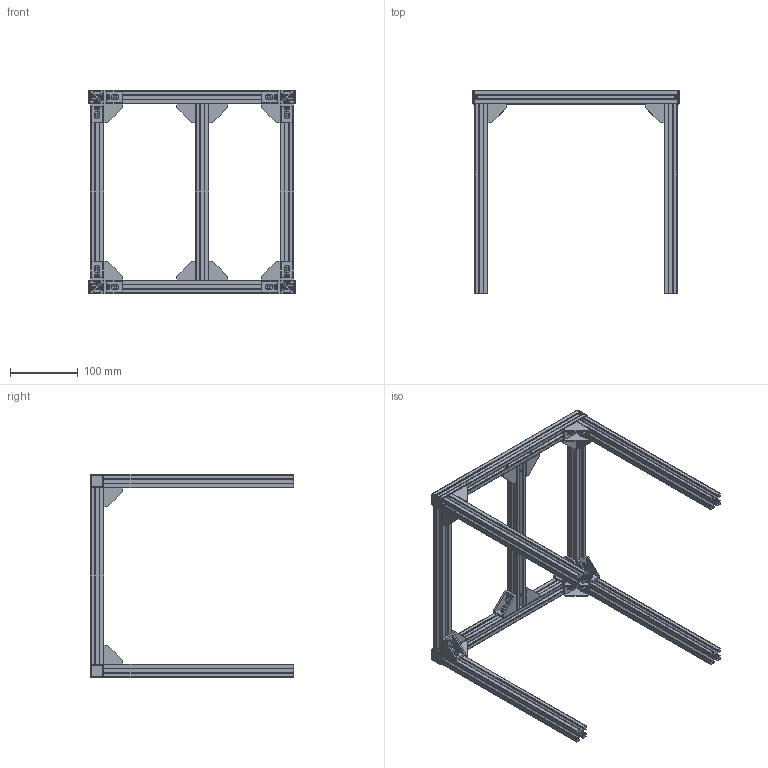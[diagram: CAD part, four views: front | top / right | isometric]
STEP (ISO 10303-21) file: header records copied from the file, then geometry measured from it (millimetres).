
FILE_DESCRIPTION(('CAx-IF Rec.Pracs.---Model Styling and Organization---1.2---2011-12-15','CAx-IF Rec.Pracs.---Geometric and Assembly Validation Properties---4.1---2014-06-16','CAx-IF Rec.Pracs.---PMI Polyline Presentation---2.0---2013-05-24'),'2;1');
FILE_NAME('Newly created project.stp','2025-06-13T07:20:10+07:00',(''),(''),'STEP Interface 2017 Sp2 by CT CoreTechnologie','3D_Kernel_IO2017 Sp2 by CT CoreTechnologie','');
FILE_SCHEMA(('AP203_CONFIGURATION_CONTROLLED_3D_DESIGN_OF_MECHANICAL_PARTS_AND_ASSEMBLIES_MIM_LF'));
Length unit declared in the file: millimetre
Products named in the file (24): Newly created project; LCF6-2020-280; LCF6-2020-300; LBSBL6-2028-SET(1); LBSBL6-2028; LNTN6-20-5; LTCM5-8; LBSBL6-2028-SET(2); LBSBL6-2028-SET(3); LBSBL6-2028-SET(4); LCF6-2020-260; LBSBL6-2028-SET(5); LBSBL6-2028-SET(6); LBSBL6-2028-SET(7); LBSBL6-2028-SET(8); LBSBL6-2028-SET(9); LBSBL6-2028-SET(10); LBSBL6-2028-SET(11); LBSBL6-2028-SET(12); LBSBL6-2028-SET(13); LBSBL6-2028-SET(14); LBSBL6-2028-SET(15); LBSBL6-2028-SET(16); LCEC6-2020-B
Assembly tree (109 placements, depth 3):
  Newly created project
    LCF6-2020-280  x4
    LCF6-2020-300  x2
    LBSBL6-2028-SET(1)
      LBSBL6-2028
      LNTN6-20-5  x2
      LTCM5-8  x2
    LBSBL6-2028-SET(2)
      LBSBL6-2028
      LNTN6-20-5  x2
      LTCM5-8  x2
    LBSBL6-2028-SET(3)
      LBSBL6-2028
      LNTN6-20-5  x2
      LTCM5-8  x2
    LBSBL6-2028-SET(4)
      LBSBL6-2028
      LNTN6-20-5  x2
      LTCM5-8  x2
    LCF6-2020-260  x3
    LBSBL6-2028-SET(5)
      LBSBL6-2028
      LNTN6-20-5  x2
      LTCM5-8  x2
    LBSBL6-2028-SET(6)
      LBSBL6-2028
      LNTN6-20-5  x2
      LTCM5-8  x2
    LBSBL6-2028-SET(7)
      LBSBL6-2028
      LNTN6-20-5  x2
      LTCM5-8  x2
    LBSBL6-2028-SET(8)
      LBSBL6-2028
      LNTN6-20-5  x2
      LTCM5-8  x2
    LBSBL6-2028-SET(9)
      LBSBL6-2028
      LNTN6-20-5  x2
      LTCM5-8  x2
    LBSBL6-2028-SET(10)
      LBSBL6-2028
      LNTN6-20-5  x2
      LTCM5-8  x2
    LBSBL6-2028-SET(11)
      LBSBL6-2028
      LNTN6-20-5  x2
      LTCM5-8  x2
    LBSBL6-2028-SET(12)
      LBSBL6-2028
      LNTN6-20-5  x2
      LTCM5-8  x2
    LBSBL6-2028-SET(13)
      LBSBL6-2028
      LNTN6-20-5  x2
      LTCM5-8  x2
    LBSBL6-2028-SET(14)
      LBSBL6-2028
      LNTN6-20-5  x2
      LTCM5-8  x2
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Bounding box: 306 x 300 x 300 mm (x, y, z)
Volume: 512044.5 mm3; surface area: 507059.1 mm2
Topology: 93 solids, 93 shells, 11204 faces, 27642 edges, 16760 vertices
Faces by surface type: plane 11204
Entity records: 40220 total; most frequent: CARTESIAN_POINT 6920, ORIENTED_EDGE 6788, DIRECTION 6414, VECTOR 3394, LINE 3394, EDGE_CURVE 3394, VERTEX_POINT 2016, AXIS2_PLACEMENT_3D 1510
